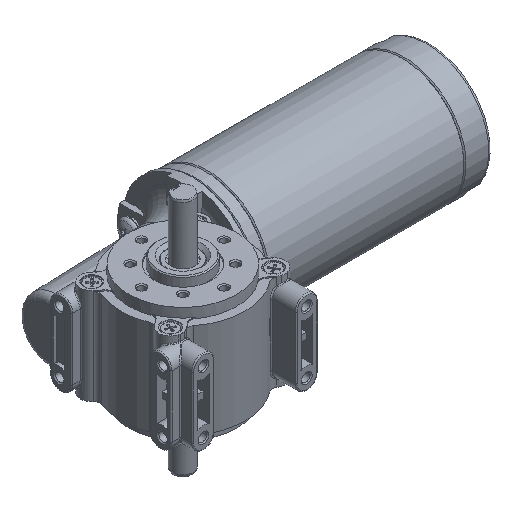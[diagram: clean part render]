
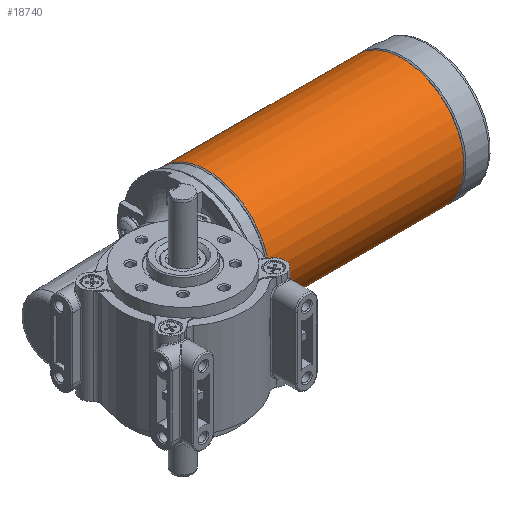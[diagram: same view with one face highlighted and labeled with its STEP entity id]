
A CAD part, isometric view. The second image highlights one B-rep face of the part: STEP entity #18740.
In plain terms, the highlighted cylindrical face has radius 30 mm (diameter 60 mm), a full revolution.
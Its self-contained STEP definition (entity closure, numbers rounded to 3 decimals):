
#2180=FACE_OUTER_BOUND('',#3312,.T.);
#3312=EDGE_LOOP('',(#15628,#15629,#15630,#15631));
#4525=CIRCLE('',#20727,30.);
#4526=CIRCLE('',#20729,30.);
#5662=LINE('',#34365,#6712);
#6712=VECTOR('',#25576,30.);
#8278=VERTEX_POINT('',#34359);
#8279=VERTEX_POINT('',#34363);
#10804=EDGE_CURVE('',#8278,#8278,#4525,.T.);
#10806=EDGE_CURVE('',#8279,#8279,#4526,.T.);
#10807=EDGE_CURVE('',#8279,#8278,#5662,.T.);
#15628=ORIENTED_EDGE('',*,*,#10806,.F.);
#15629=ORIENTED_EDGE('',*,*,#10807,.T.);
#15630=ORIENTED_EDGE('',*,*,#10804,.F.);
#15631=ORIENTED_EDGE('',*,*,#10807,.F.);
#16990=CYLINDRICAL_SURFACE('',#20728,30.);
#18740=ADVANCED_FACE('',(#2180),#16990,.T.);
#20727=AXIS2_PLACEMENT_3D('',#34360,#25569,#25570);
#20728=AXIS2_PLACEMENT_3D('',#34362,#25572,#25573);
#20729=AXIS2_PLACEMENT_3D('',#34364,#25574,#25575);
#25569=DIRECTION('center_axis',(1.,0.,0.));
#25570=DIRECTION('ref_axis',(0.,0.707,0.707));
#25572=DIRECTION('center_axis',(-1.,0.,0.));
#25573=DIRECTION('ref_axis',(0.,0.707,0.707));
#25574=DIRECTION('center_axis',(-1.,0.,0.));
#25575=DIRECTION('ref_axis',(0.,0.707,0.707));
#25576=DIRECTION('',(1.,0.,0.));
#34359=CARTESIAN_POINT('',(127.278,-5.12,-20.963));
#34360=CARTESIAN_POINT('Origin',(127.278,16.093,0.25));
#34362=CARTESIAN_POINT('Origin',(127.778,16.093,0.25));
#34363=CARTESIAN_POINT('',(33.278,-5.12,-20.963));
#34364=CARTESIAN_POINT('Origin',(33.278,16.093,0.25));
#34365=CARTESIAN_POINT('',(127.778,-5.12,-20.963));
